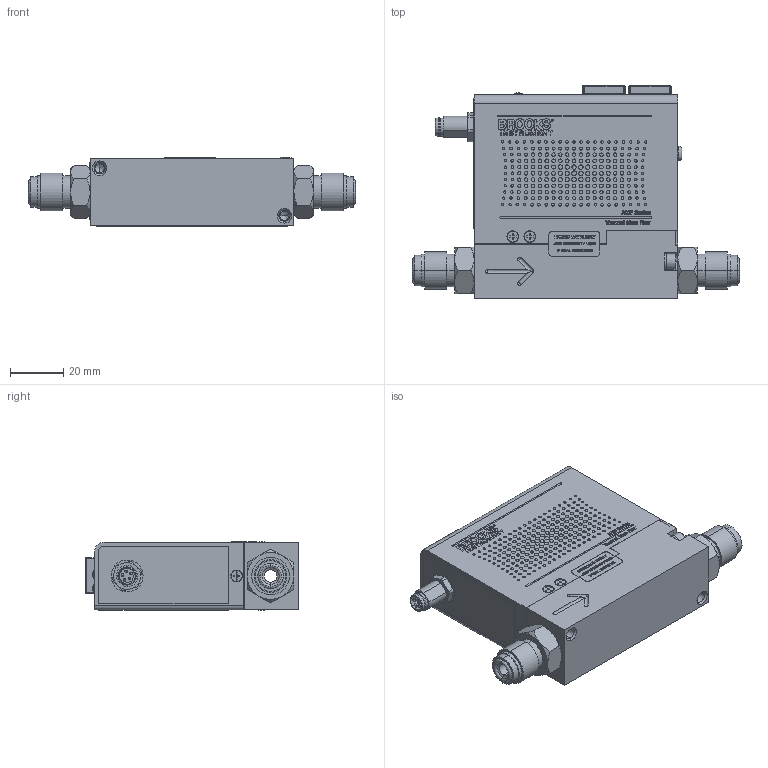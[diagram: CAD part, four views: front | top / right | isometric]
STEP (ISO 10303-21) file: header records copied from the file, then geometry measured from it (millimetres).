
FILE_DESCRIPTION (( 'STEP AP203' ), '1' );
FILE_NAME ('AMF-C-7-S-1E-A.STEP', '2026-05-21T17:12:51', ( '' ), ( '' ), 'SwSTEP 2.0', 'SolidWorks 2023', '' );
FILE_SCHEMA (( 'CONFIG_CONTROL_DESIGN' ));
Products named in the file (1): AMF-C-7-S-1E-A
Bounding box: 122.28 x 79.61 x 25.82 mm (x, y, z)
Volume: 31768 mm3; surface area: 47350.8 mm2
Topology: 32 solids, 35 shells, 3902 faces, 9874 edges, 6428 vertices
Faces by surface type: plane 2007, bspline 1239, cylinder 457, cone 145, torus 37, sphere 17
Entity records: 143415 total; most frequent: CARTESIAN_POINT 58183, ORIENTED_EDGE 19656, DIRECTION 13226, EDGE_CURVE 9828, VERTEX_POINT 6412, LINE 6040, VECTOR 6040, EDGE_LOOP 4386
